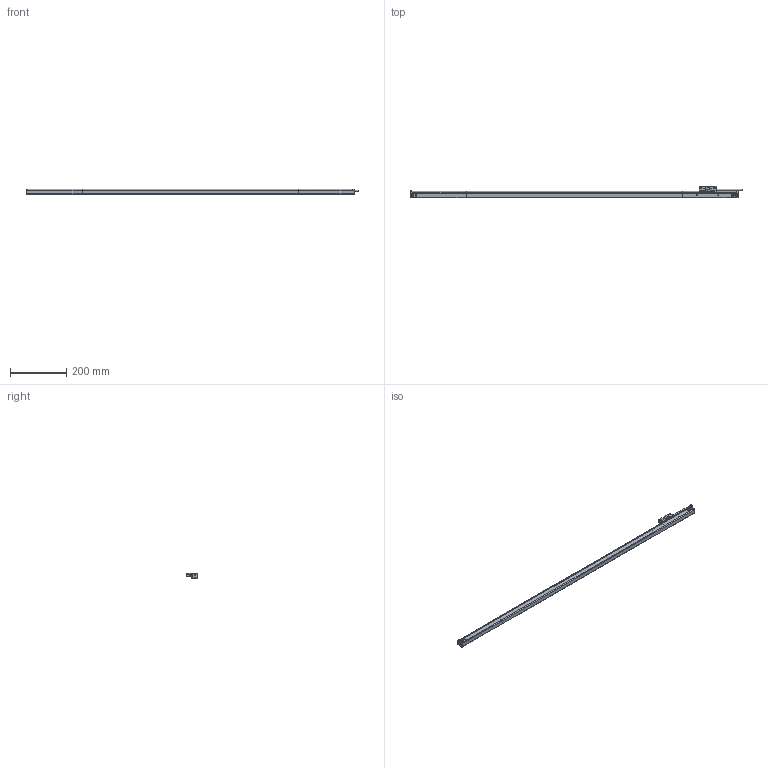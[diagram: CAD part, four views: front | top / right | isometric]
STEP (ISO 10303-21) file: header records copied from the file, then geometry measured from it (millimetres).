
FILE_DESCRIPTION( ( 'STEP AP203' ), '1' );
FILE_NAME( 'N:/Engineering/CAD_Solid/Magnescale/GBER/GB-105ER_SR138-105R.stp', '2013-03-14T10:06:03', ( ' ' ), ( ' ' ), 'XStep 1.0', ' ', ' ' );
FILE_SCHEMA( ( 'CONFIG_CONTROL_DESIGN) ( )' ) );
Length unit declared in the file: metre
Products named in the file (1): 1
Bounding box: 1182.5 x 42 x 21 mm (x, y, z)
Surface area: 114871.2 mm2 (no closed solid volume)
Topology: 0 solids, 247 shells, 247 faces, 1385 edges, 1359 vertices
Faces by surface type: plane 159, cylinder 69, torus 12, cone 7
Full cylindrical faces by diameter (mm): 2.113 x2, 4 x4, 4.8 x1, 5 x2, 6 x1, 9.8 x2, 10 x2
Entity records: 13387 total; most frequent: CARTESIAN_POINT 2952, DIRECTION 2251, ORIENTED_EDGE 1352, EDGE_CURVE 1352, VERTEX_POINT 1352, LINE 949, VECTOR 949, AXIS2_PLACEMENT_3D 651
